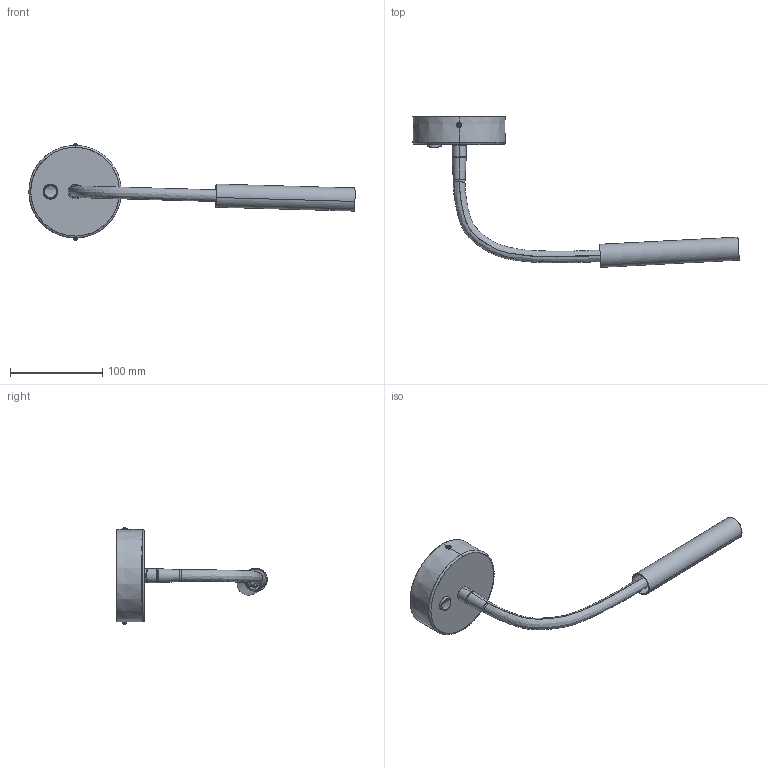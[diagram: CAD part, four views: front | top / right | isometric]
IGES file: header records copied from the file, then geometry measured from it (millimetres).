
Start section: SolidWorks IGES file using analytic representation for surfaces
Global section: file name: F:\GABRYSIA\MODELE 3D\STALACTITE_8352_WWW\STALACTITE_8352.IGS; native system: SolidWorks 2017; preprocessor: SolidWorks 2017; author: Togambi; date: 200707.120742; units: millimetre
Bounding box: 352.87 x 162.99 x 104.13 mm (x, y, z)
Surface area: 91893 mm2 (no closed solid volume)
Topology: 0 solids, 0 shells, 451 faces, 8808 edges, 8800 vertices
Faces by surface type: revolution 315, bspline 136
